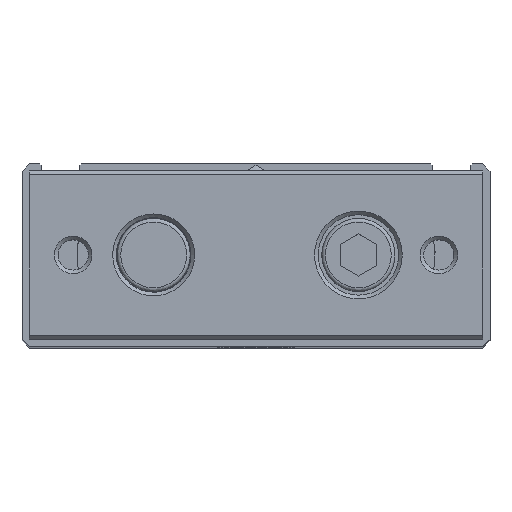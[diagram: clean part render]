
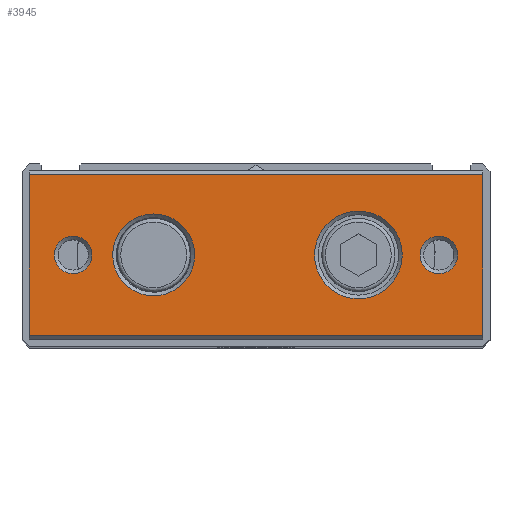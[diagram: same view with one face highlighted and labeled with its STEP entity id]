
A CAD part, top view. The second image highlights one B-rep face of the part: STEP entity #3945.
In plain terms, the highlighted planar face has unit normal (0, 0, 1).
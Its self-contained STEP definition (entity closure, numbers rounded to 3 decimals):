
#3393=CARTESIAN_POINT('',(-31.0,-11.,144.0));
#3394=VERTEX_POINT('',#3393);
#3401=CARTESIAN_POINT('',(-31.0,11.,144.0));
#3402=VERTEX_POINT('',#3401);
#3403=CARTESIAN_POINT('',(-31.0,11.,144.0));
#3404=DIRECTION('',(0.0,-1.0,0.0));
#3405=VECTOR('',#3404,22.);
#3406=LINE('',#3403,#3405);
#3407=EDGE_CURVE('',#3402,#3394,#3406,.T.);
#3521=CARTESIAN_POINT('',(31.0,-11.,144.0));
#3522=VERTEX_POINT('',#3521);
#3529=CARTESIAN_POINT('',(31.0,-11.,144.0));
#3530=DIRECTION('',(-1.0,0.0,0.0));
#3531=VECTOR('',#3530,62.0);
#3532=LINE('',#3529,#3531);
#3533=EDGE_CURVE('',#3522,#3394,#3532,.T.);
#3600=CARTESIAN_POINT('',(31.0,11.,144.0));
#3601=VERTEX_POINT('',#3600);
#3608=CARTESIAN_POINT('',(31.0,-11.,144.0));
#3609=DIRECTION('',(0.0,1.0,0.0));
#3610=VECTOR('',#3609,22.);
#3611=LINE('',#3608,#3610);
#3612=EDGE_CURVE('',#3522,#3601,#3611,.T.);
#3881=CARTESIAN_POINT('',(20.0,0.,144.0));
#3882=VERTEX_POINT('',#3881);
#3883=CARTESIAN_POINT('',(14.0,0.,144.0));
#3884=DIRECTION('',(0.0,0.0,1.0));
#3885=DIRECTION('',(-1.0,0.0,0.0));
#3886=AXIS2_PLACEMENT_3D('',#3883,#3884,#3885);
#3887=CIRCLE('',#3886,6.);
#3888=EDGE_CURVE('',#3882,#3882,#3887,.T.);
#3893=CARTESIAN_POINT('',(0.0,-11.5,144.0));
#3894=DIRECTION('',(0.0,0.0,1.0));
#3895=DIRECTION('',(1.0,0.0,0.0));
#3896=AXIS2_PLACEMENT_3D('',#3893,#3894,#3895);
#3897=PLANE('',#3896);
#3898=ORIENTED_EDGE('',*,*,#3533,.F.);
#3899=ORIENTED_EDGE('',*,*,#3612,.T.);
#3900=CARTESIAN_POINT('',(-31.0,11.,144.0));
#3901=DIRECTION('',(1.0,0.0,0.0));
#3902=VECTOR('',#3901,62.0);
#3903=LINE('',#3900,#3902);
#3904=EDGE_CURVE('',#3402,#3601,#3903,.T.);
#3905=ORIENTED_EDGE('',*,*,#3904,.F.);
#3906=ORIENTED_EDGE('',*,*,#3407,.T.);
#3907=EDGE_LOOP('',(#3898,#3899,#3905,#3906));
#3908=FACE_OUTER_BOUND('',#3907,.T.);
#3909=CARTESIAN_POINT('',(-8.4,0.,144.0));
#3910=VERTEX_POINT('',#3909);
#3911=CARTESIAN_POINT('',(-14.,0.,144.0));
#3912=DIRECTION('',(0.0,0.0,1.0));
#3913=DIRECTION('',(-1.0,0.0,0.0));
#3914=AXIS2_PLACEMENT_3D('',#3911,#3912,#3913);
#3915=CIRCLE('',#3914,5.6);
#3916=EDGE_CURVE('',#3910,#3910,#3915,.T.);
#3917=ORIENTED_EDGE('',*,*,#3916,.F.);
#3918=EDGE_LOOP('',(#3917));
#3919=FACE_BOUND('',#3918,.T.);
#3920=CARTESIAN_POINT('',(27.567,0.,144.0));
#3921=VERTEX_POINT('',#3920);
#3922=CARTESIAN_POINT('',(25.,0.,144.0));
#3923=DIRECTION('',(0.0,0.0,1.0));
#3924=DIRECTION('',(-1.0,0.0,0.0));
#3925=AXIS2_PLACEMENT_3D('',#3922,#3923,#3924);
#3926=CIRCLE('',#3925,2.567);
#3927=EDGE_CURVE('',#3921,#3921,#3926,.T.);
#3928=ORIENTED_EDGE('',*,*,#3927,.F.);
#3929=EDGE_LOOP('',(#3928));
#3930=FACE_BOUND('',#3929,.T.);
#3931=CARTESIAN_POINT('',(-22.433,0.,144.0));
#3932=VERTEX_POINT('',#3931);
#3933=CARTESIAN_POINT('',(-25.0,0.,144.0));
#3934=DIRECTION('',(0.0,0.0,1.0));
#3935=DIRECTION('',(-1.0,0.0,0.0));
#3936=AXIS2_PLACEMENT_3D('',#3933,#3934,#3935);
#3937=CIRCLE('',#3936,2.567);
#3938=EDGE_CURVE('',#3932,#3932,#3937,.T.);
#3939=ORIENTED_EDGE('',*,*,#3938,.F.);
#3940=EDGE_LOOP('',(#3939));
#3941=FACE_BOUND('',#3940,.T.);
#3942=ORIENTED_EDGE('',*,*,#3888,.F.);
#3943=EDGE_LOOP('',(#3942));
#3944=FACE_BOUND('',#3943,.T.);
#3945=ADVANCED_FACE('',(#3908,#3919,#3930,#3941,#3944),#3897,.T.);
